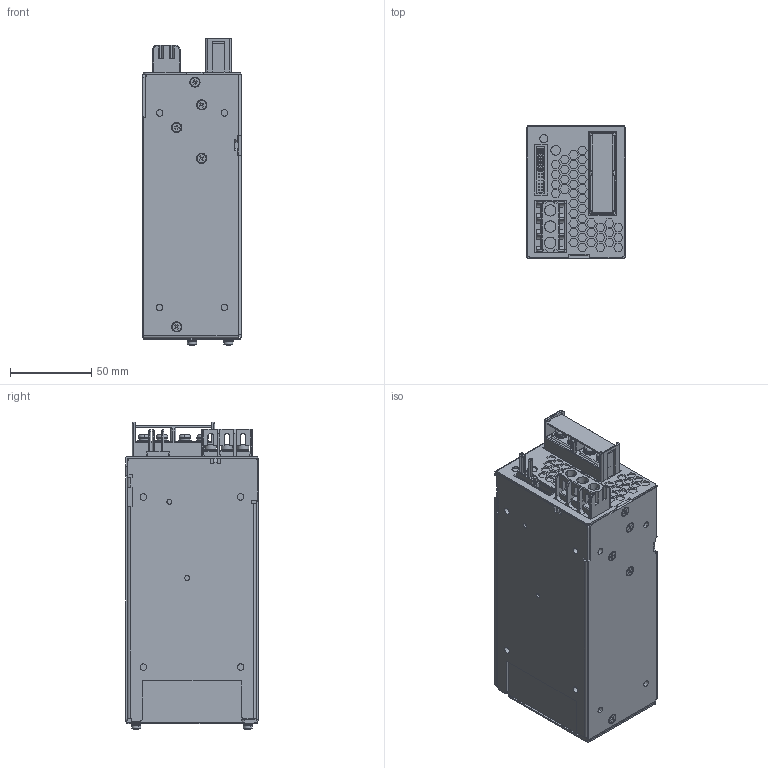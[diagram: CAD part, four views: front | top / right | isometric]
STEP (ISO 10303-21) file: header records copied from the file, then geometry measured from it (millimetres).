
FILE_DESCRIPTION (( 'STEP AP214' ), '1' );
FILE_NAME ('HWS300_OUTLINE.STEP', '2006-04-27T06:50:12', ( ' ' ), ( ' ' ), 'SwSTEP 2.0', 'SolidWorks 2005354', '' );
FILE_SCHEMA (( 'AUTOMOTIVE_DESIGN' ));
Length unit declared in the file: millimetre
Products named in the file (1): HWS300_OUTLINE
Bounding box: 61 x 82 x 189.55 mm (x, y, z)
Volume: 824079.2 mm3; surface area: 74073.9 mm2
Topology: 3 solids, 4 shells, 1753 faces, 4546 edges, 2939 vertices
Faces by surface type: plane 1289, cylinder 336, cone 84, torus 40, sphere 4
Entity records: 72742 total; most frequent: CARTESIAN_POINT 10007, ORIENTED_EDGE 9084, DIRECTION 8831, EDGE_CURVE 4542, VECTOR 3393, LINE 3393, VERTEX_POINT 2939, AXIS2_PLACEMENT_3D 2719
